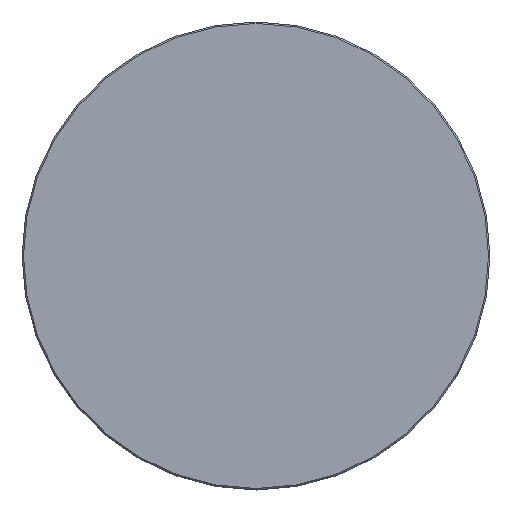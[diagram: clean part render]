
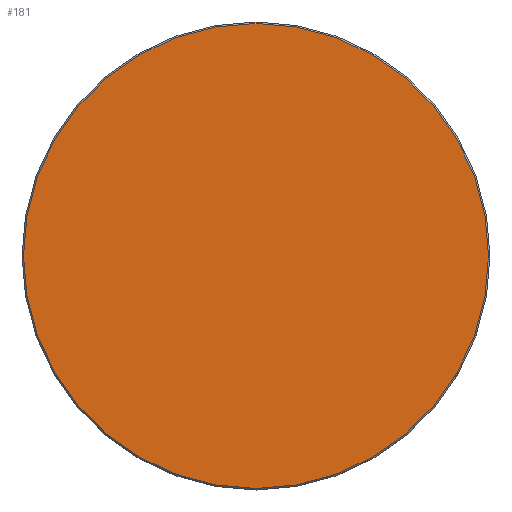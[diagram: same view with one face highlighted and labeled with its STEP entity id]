
A CAD part, top view. The second image highlights one B-rep face of the part: STEP entity #181.
In plain terms, the highlighted planar face has unit normal (0, 0, 1).
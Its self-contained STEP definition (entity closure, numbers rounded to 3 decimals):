
#47=CARTESIAN_POINT('',(0.,0.,0.));
#48=DIRECTION('',(0.,0.,1.));
#49=DIRECTION('',(1.,0.,0.));
#50=AXIS2_PLACEMENT_3D('',#47,#48,#49);
#52=CARTESIAN_POINT('',(0.,0.,0.));
#53=DIRECTION('',(0.,0.,1.));
#54=DIRECTION('',(-1.,0.,0.));
#55=AXIS2_PLACEMENT_3D('',#52,#53,#54);
#79=CARTESIAN_POINT('',(79.5,0.,0.));
#80=CARTESIAN_POINT('',(-79.5,0.,0.));
#81=VERTEX_POINT('',#79);
#82=VERTEX_POINT('',#80);
#171=CARTESIAN_POINT('',(0.,0.,0.));
#172=DIRECTION('',(0.,0.,1.));
#173=DIRECTION('',(1.,0.,0.));
#174=AXIS2_PLACEMENT_3D('',#171,#172,#173);
#175=PLANE('',#174);
#177=ORIENTED_EDGE('',*,*,#176,.F.);
#178=ORIENTED_EDGE('',*,*,#161,.F.);
#179=EDGE_LOOP('',(#177,#178));
#180=FACE_OUTER_BOUND('',#179,.F.);
#181=ADVANCED_FACE('',(#180),#175,.T.);
#51=CIRCLE('',#50,79.5);
#56=CIRCLE('',#55,79.5);
#161=EDGE_CURVE('',#82,#81,#56,.T.);
#176=EDGE_CURVE('',#81,#82,#51,.T.);
